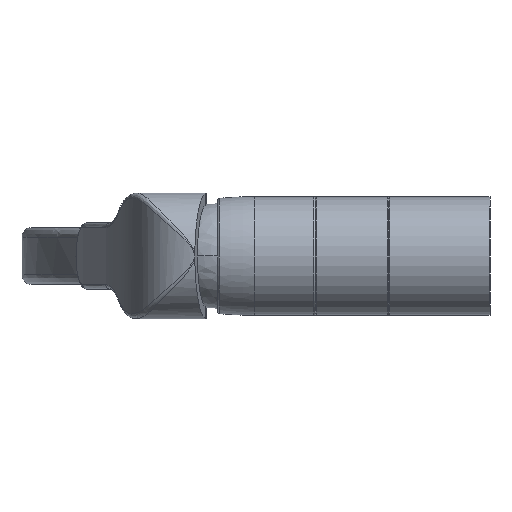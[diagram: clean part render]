
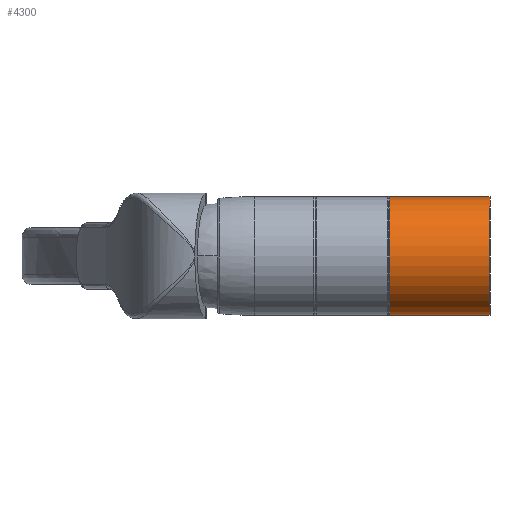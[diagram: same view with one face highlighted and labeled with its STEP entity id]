
A CAD part, left-side view. The second image highlights one B-rep face of the part: STEP entity #4300.
In plain terms, the highlighted cylindrical face has radius 25 mm (diameter 50 mm), a partial arc.
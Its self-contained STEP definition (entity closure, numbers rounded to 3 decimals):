
#40 = EDGE_CURVE ( 'NONE', #1008, #4272, #4805, .T. ) ;
#118 = VECTOR ( 'NONE', #1545, 1000. ) ;
#757 = CARTESIAN_POINT ( 'NONE',  ( 0., 114.8, 0. ) ) ;
#842 = DIRECTION ( 'NONE',  ( 0., 0., 1. ) ) ;
#1008 = VERTEX_POINT ( 'NONE', #5653 ) ;
#1273 = DIRECTION ( 'NONE',  ( 0., 0., 1. ) ) ;
#1313 = CARTESIAN_POINT ( 'NONE',  ( 0., 42.2, 25. ) ) ;
#1349 = LINE ( 'NONE', #6717, #5731 ) ;
#1506 = CARTESIAN_POINT ( 'NONE',  ( 0., 0., 0. ) ) ;
#1545 = DIRECTION ( 'NONE',  ( 0., 1., 0. ) ) ;
#2201 = FACE_OUTER_BOUND ( 'NONE', #3830, .T. ) ;
#2324 = ORIENTED_EDGE ( 'NONE', *, *, #4256, .T. ) ;
#3201 = EDGE_CURVE ( 'NONE', #1008, #8081, #8275, .T. ) ;
#3245 = CARTESIAN_POINT ( 'NONE',  ( 0., 42.2, 0. ) ) ;
#3283 = CIRCLE ( 'NONE', #8631, 25. ) ;
#3830 = EDGE_LOOP ( 'NONE', ( #8589, #6835, #2324, #6789 ) ) ;
#3969 = CARTESIAN_POINT ( 'NONE',  ( 0., 42.2, -25. ) ) ;
#4256 = EDGE_CURVE ( 'NONE', #4272, #5568, #1349, .T. ) ;
#4262 = CYLINDRICAL_SURFACE ( 'NONE', #6293, 25. ) ;
#4272 = VERTEX_POINT ( 'NONE', #5500 ) ;
#4300 = ADVANCED_FACE ( 'NONE', ( #2201 ), #4262, .T. ) ;
#4805 = CIRCLE ( 'NONE', #5013, 25. ) ;
#5013 = AXIS2_PLACEMENT_3D ( 'NONE', #1506, #6875, #842 ) ;
#5500 = CARTESIAN_POINT ( 'NONE',  ( 0., 0., 25. ) ) ;
#5502 = CARTESIAN_POINT ( 'NONE',  ( 0., 114.8, -25. ) ) ;
#5568 = VERTEX_POINT ( 'NONE', #1313 ) ;
#5653 = CARTESIAN_POINT ( 'NONE',  ( 0., 0., -25. ) ) ;
#5731 = VECTOR ( 'NONE', #8568, 1000. ) ;
#6099 = DIRECTION ( 'NONE',  ( 0., 1., 0. ) ) ;
#6293 = AXIS2_PLACEMENT_3D ( 'NONE', #757, #6099, #6866 ) ;
#6717 = CARTESIAN_POINT ( 'NONE',  ( 0., 114.8, 25. ) ) ;
#6789 = ORIENTED_EDGE ( 'NONE', *, *, #8515, .F. ) ;
#6835 = ORIENTED_EDGE ( 'NONE', *, *, #40, .T. ) ;
#6866 = DIRECTION ( 'NONE',  ( 0., 0., 1. ) ) ;
#6875 = DIRECTION ( 'NONE',  ( 0., 1., 0. ) ) ;
#7413 = DIRECTION ( 'NONE',  ( 0., 1., 0. ) ) ;
#8081 = VERTEX_POINT ( 'NONE', #3969 ) ;
#8275 = LINE ( 'NONE', #5502, #118 ) ;
#8515 = EDGE_CURVE ( 'NONE', #8081, #5568, #3283, .T. ) ;
#8568 = DIRECTION ( 'NONE',  ( 0., 1., 0. ) ) ;
#8589 = ORIENTED_EDGE ( 'NONE', *, *, #3201, .F. ) ;
#8631 = AXIS2_PLACEMENT_3D ( 'NONE', #3245, #7413, #1273 ) ;
